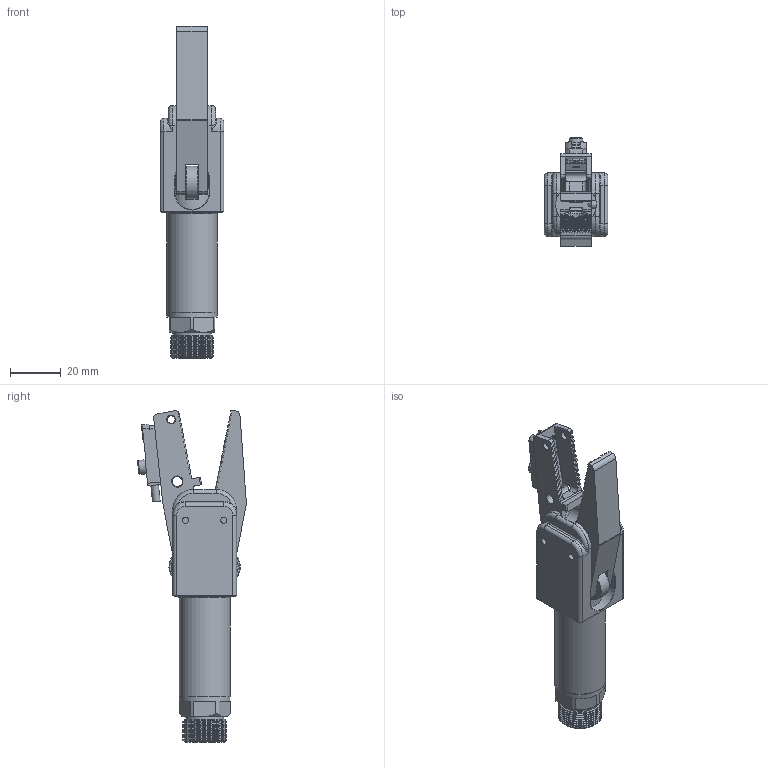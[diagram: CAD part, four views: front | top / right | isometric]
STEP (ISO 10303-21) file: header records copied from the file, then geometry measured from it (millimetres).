
FILE_DESCRIPTION(/* description */ (''),/* implementation_level */ '2;1');
FILE_NAME(/* name */ 'GRT20A-CN.stp',/* time_stamp */ '2023-03-09T10:50:06+08:00',/* author */ (''),/* organization */ (''),/* preprocessor_version */ 'ST-DEVELOPER v16',/* originating_system */ 'SIEMENS PLM Software NX 10.0',/* authorisation */ '');
FILE_SCHEMA (('AUTOMOTIVE_DESIGN { 1 0 10303 214 3 1 1 1 }'));
Length unit declared in the file: millimetre
Products named in the file (1): Admi115498B06jq7
Bounding box: 25 x 42.68 x 130.22 mm (x, y, z)
Volume: 43373.6 mm3; surface area: 18331.3 mm2
Topology: 2 solids, 5 shells, 1218 faces, 2839 edges, 1632 vertices
Faces by surface type: plane 988, cylinder 133, cone 63, torus 25, bspline 9
Full cylindrical faces by diameter (mm): 1 x2, 2 x1, 2.5 x3, 3 x6, 3.1 x1, 3.4 x1, 4 x8, 5.5 x1, 6 x1, 8 x2, 8.8 x1, 15 x1, 16 x1, 17 x8, 20 x2
Entity records: 35251 total; most frequent: CARTESIAN_POINT 6906, ORIENTED_EDGE 5462, DIRECTION 5384, EDGE_CURVE 2731, LINE 2256, VECTOR 2256, VERTEX_POINT 1611, AXIS2_PLACEMENT_3D 1564
